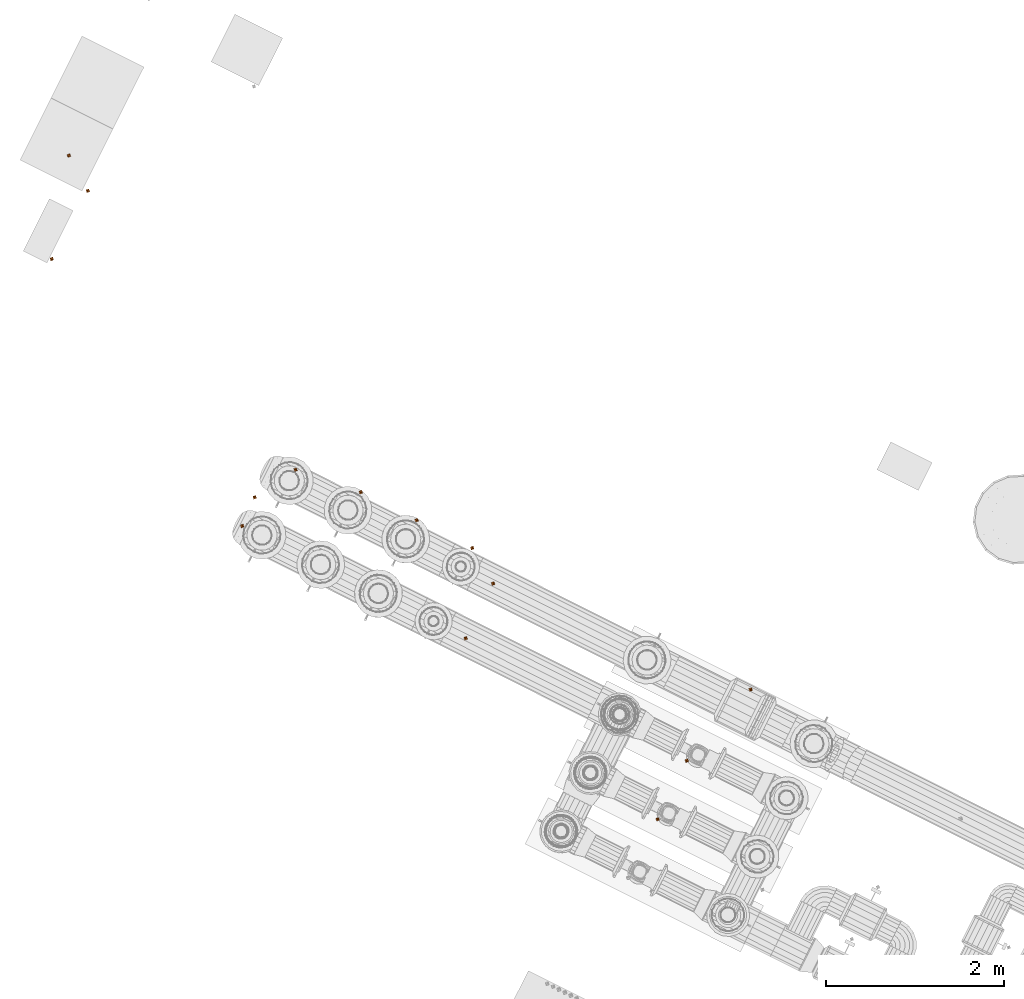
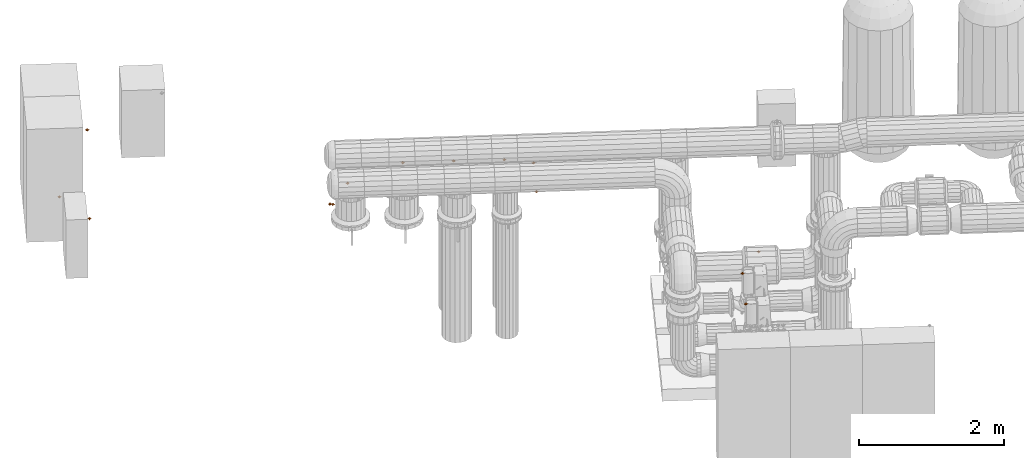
# One storey, part 150 of 152: 14 proxies.
"""IFC2X3 building model written with IfcOpenShell, lengths in metres."""

import ifcopenshell
import ifcopenshell.guid

model = None  # the IFC model being written
_history = None  # IfcOwnerHistory: only IFC2X3 demands one
_inside = {}  # id of a spatial element -> (the spatial element, [elements in it])
_under = {}  # id of a project, library or spatial element -> (it, [spatial elements below it])
_declared = {}  # id of a project -> (the project, [libraries it declares])
_typed = {}  # id of a type object -> (the type object, [elements of that type])
_made_of = {}  # id of a material, layer set ... -> (it, [elements and type objects made of it])


def new_model(schema):
    """Start an empty IFC model of exactly this schema.

    Asked for "IFC4X3", IfcOpenShell would pick the latest addendum, in which some entities
    have other attributes; the version numbers below select the first issue.
    IFC2X3 requires an IfcOwnerHistory on every rooted entity: one is made here for all.
    """
    global model, _history
    if schema == "IFC4X3":
        model = ifcopenshell.file(schema_version=(4, 3, 0, 0))
    else:
        model = ifcopenshell.file(schema=schema)
    _inside.clear()
    _under.clear()
    _declared.clear()
    _typed.clear()
    _made_of.clear()
    _history = None
    if model.schema == "IFC2X3":
        org = make("IfcOrganization", Name="unknown")
        user = make(
            "IfcPersonAndOrganization",
            ThePerson=make("IfcPerson", FamilyName="unknown"),
            TheOrganization=org,
        )
        app = make(
            "IfcApplication",
            ApplicationDeveloper=org,
            Version="unknown",
            ApplicationFullName="unknown",
            ApplicationIdentifier="unknown",
        )
        _history = make(
            "IfcOwnerHistory",
            OwningUser=user,
            OwningApplication=app,
            ChangeAction="ADDED",
            CreationDate=0,
        )
    return model


def make(cls, **values):
    """One entity of the class cls with the attributes given. An attribute that is None is left unset."""
    return model.create_entity(
        cls, **{name: value for name, value in values.items() if value is not None}
    )


def rooted(cls, **values):
    """An entity with a GlobalId (a new one), such as an element, a storey or a relation."""
    return make(cls, GlobalId=ifcopenshell.guid.new(), OwnerHistory=_history, **values)


def si_unit(unit_type, name, prefix=None):
    """IfcSIUnit, for example si_unit("LENGTHUNIT", "METRE", prefix="MILLI")."""
    return make("IfcSIUnit", UnitType=unit_type, Prefix=prefix, Name=name)


def derived_unit(unit_type, elements):
    """IfcDerivedUnit: a product of units, each with its exponent."""
    return make(
        "IfcDerivedUnit",
        Elements=[
            make("IfcDerivedUnitElement", Unit=unit, Exponent=power)
            for unit, power in elements
        ],
        UnitType=unit_type,
    )


def assignment(units):
    """IfcUnitAssignment: the units of a project."""
    return None if units is None else make("IfcUnitAssignment", Units=units)


def point(xyz):
    """IfcCartesianPoint."""
    return None if xyz is None else make("IfcCartesianPoint", Coordinates=xyz)


def direction(xyz):
    """IfcDirection."""
    return None if xyz is None else make("IfcDirection", DirectionRatios=xyz)


def frame(location, z_axis=None, x_axis=None):
    """IfcAxis2Placement3D, a coordinate frame: its origin and axes. An axis left out is left unset."""
    return make(
        "IfcAxis2Placement3D",
        Location=point(location),
        Axis=direction(z_axis),
        RefDirection=direction(x_axis),
    )


def origin():
    """The frame at (0, 0, 0) with its axes left unset."""
    return frame((0.0, 0.0, 0.0))


def place(relative_to, where):
    """IfcLocalPlacement: puts the frame where relative to a parent placement (None: the world)."""
    return make(
        "IfcLocalPlacement", PlacementRelTo=relative_to, RelativePlacement=where
    )


def context(
    kind, dimensions, precision=None, world=None, true_north=None, identifier=None
):
    """IfcGeometricRepresentationContext, for example the 3D "Model" context."""
    return make(
        "IfcGeometricRepresentationContext",
        ContextIdentifier=identifier,
        ContextType=kind,
        CoordinateSpaceDimension=dimensions,
        Precision=precision,
        WorldCoordinateSystem=world,
        TrueNorth=true_north,
    )


def subcontext(parent, identifier, kind, view, scale=None):
    """IfcGeometricRepresentationSubContext, for example "Body" below "Model"."""
    return make(
        "IfcGeometricRepresentationSubContext",
        ContextIdentifier=identifier,
        ContextType=kind,
        ParentContext=parent,
        TargetScale=scale,
        TargetView=view,
    )


def project(units=None, contexts=None):
    """IfcProject with its units and contexts."""
    return rooted(
        "IfcProject",
        Name="project",
        RepresentationContexts=contexts,
        UnitsInContext=assignment(units),
    )


def spatial(cls, under=None, at=None, **own):
    """A site, building, storey or space (cls), placed at a placement, below another one or the project."""
    s = rooted(cls, ObjectPlacement=at, **own)
    if under is not None:
        _under.setdefault(under.id(), (under, []))[1].append(s)
    return s


def faces_of(points, faces, orient=None, outer=None):
    """IfcFace entities. A face is a list of loops; a loop is a list of indices into points, from 0.

    orient and outer hold one flag for each loop. By default every Orientation is true, the
    first loop of a face is its IfcFaceOuterBound and the others are IfcFaceBound.
    """
    made = []
    for i, loops in enumerate(faces):
        bounds = []
        for j, loop in enumerate(loops):
            is_outer = j == 0 if outer is None else outer[i][j]
            bounds.append(
                make(
                    "IfcFaceOuterBound" if is_outer else "IfcFaceBound",
                    Bound=make("IfcPolyLoop", Polygon=[points[k] for k in loop]),
                    Orientation=True if orient is None else orient[i][j],
                )
            )
        made.append(make("IfcFace", Bounds=bounds))
    return made


def faceted_brep(points, faces, orient=None, outer=None, voids=None):
    """IfcFacetedBrep: a solid bounded by flat faces; with voids (closed shells), ...WithVoids."""
    shared = [point(p) for p in points]
    hull = make("IfcClosedShell", CfsFaces=faces_of(shared, faces, orient, outer))
    if voids is None:
        return make("IfcFacetedBrep", Outer=hull)
    return make(
        "IfcFacetedBrepWithVoids",
        Outer=hull,
        Voids=[
            make(cls, CfsFaces=faces_of(shared, fs, o, b)) for cls, fs, o, b in voids
        ],
    )


def shape(context_of_items, identifier, shape_type, items):
    """IfcShapeRepresentation: the items that make up one representation, for example the "Body"."""
    return make(
        "IfcShapeRepresentation",
        ContextOfItems=context_of_items,
        RepresentationIdentifier=identifier,
        RepresentationType=shape_type,
        Items=items,
    )


def made_of(thing, what):
    """Note that an element or type object is made of a material, layer set ...; save() writes the relation."""
    if what is not None:
        _made_of.setdefault(what.id(), (what, []))[1].append(thing)
    return thing


def type_object(cls, material=None, **own):
    """A type object (cls), such as IfcWallType, which elements share."""
    return made_of(rooted(cls, **own), material)


def element(
    cls,
    number,
    at=None,
    inside=None,
    cuts=None,
    type_object=None,
    material=None,
    context=None,
    identifier="Body",
    shape_type=None,
    held_by="IfcProductDefinitionShape",
    body=None,
    shapes=None,
    **own,
):
    """One element of the class cls, such as IfcWall. Its Tag is "e" and its number.

    at: its placement. inside: the storey or other place that contains it. cuts: it is an
    opening in that element (IfcRelVoidsElement). A single representation is given by context,
    identifier, shape_type and body (its items); several are given by shapes. held_by: the class
    of the entity that holds the representations. save() writes the other relations.
    """
    e = rooted(cls, Tag="e%d" % number, ObjectPlacement=at, **own)
    if body is not None:
        shapes = [shape(context, identifier, shape_type, body)]
    if shapes is not None:
        e.Representation = make(held_by, Representations=shapes)
    if inside is not None:
        _inside.setdefault(inside.id(), (inside, []))[1].append(e)
    if cuts is not None:
        rooted(
            "IfcRelVoidsElement", RelatingBuildingElement=cuts, RelatedOpeningElement=e
        )
    if type_object is not None:
        _typed.setdefault(type_object.id(), (type_object, []))[1].append(e)
    return made_of(e, material)


def aggregate(whole, parts):
    """IfcRelAggregates: a whole, such as a stair, and the parts it consists of."""
    return rooted("IfcRelAggregates", RelatingObject=whole, RelatedObjects=parts)


def save(model, path):
    """Write the relations noted so far, then the file.

    IfcRelAggregates (storeys below a building ...), IfcRelContainedInSpatialStructure (elements
    in a storey), IfcRelDefinesByType, IfcRelAssociatesMaterial and IfcRelDeclares: one each for
    every whole, place, type object, material and project.
    """
    for whole, parts in _under.values():
        aggregate(whole, parts)
    for where, things in _inside.values():
        rooted(
            "IfcRelContainedInSpatialStructure",
            RelatedElements=things,
            RelatingStructure=where,
        )
    for kind, things in _typed.values():
        rooted("IfcRelDefinesByType", RelatedObjects=things, RelatingType=kind)
    for what, things in _made_of.values():
        rooted("IfcRelAssociatesMaterial", RelatedObjects=things, RelatingMaterial=what)
    for by, libraries in _declared.values():
        rooted("IfcRelDeclares", RelatingContext=by, RelatedDefinitions=libraries)
    model.write(path)


model = new_model("IFC2X3")

# Units and contexts
model_context = context("Model", 3, precision=5.2338327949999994e-05, world=origin(), true_north=direction((0.0, 1.0)))
body_context = subcontext(model_context, "Body", "Model", "MODEL_VIEW")
ifc_project = project(units=[si_unit("LENGTHUNIT", "METRE"), si_unit("AREAUNIT", "SQUARE_METRE"), si_unit("VOLUMEUNIT", "CUBIC_METRE"), si_unit("MASSUNIT", "GRAM", prefix="KILO"), si_unit("PLANEANGLEUNIT", "RADIAN"), derived_unit("THERMALTRANSMITTANCEUNIT", [(si_unit("MASSUNIT", "GRAM", prefix="KILO"), 1), (si_unit("THERMODYNAMICTEMPERATUREUNIT", "KELVIN"), -1), (si_unit("TIMEUNIT", "SECOND"), -3)])], contexts=[model_context])

# Site, building, storey
site_placement = place(None, frame((0.0, 0.0, 0.0), z_axis=(0.0, 0.0, 1.0), x_axis=(0.8939966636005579, -0.4480736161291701, 0.0)))
site = spatial("IfcSite", under=ifc_project, at=site_placement, Name="Default", CompositionType="ELEMENT")
building_placement = place(site_placement, origin())
building = spatial("IfcBuilding", under=site, at=building_placement, CompositionType="ELEMENT")
storey_placement = place(building_placement, frame((0.0, 0.0, 2.7499999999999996)))
storey = spatial("IfcBuildingStorey", under=building, at=storey_placement, Name="1. Obergeschoss", CompositionType="ELEMENT", Elevation=2.7499999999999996)

# Proxies
building_element_proxy_type = type_object("IfcBuildingElementProxyType", Name="DirectShape:Gebäudeautomation", PredefinedType="NOTDEFINED")
proxy_1_placement = place(storey_placement, origin())
element("IfcBuildingElementProxy", 1, at=proxy_1_placement, inside=storey, type_object=building_element_proxy_type, Name="DirectShape:Wärmeversorgungsnetz Vorlauffühler", context=body_context, shape_type="Brep", body=[
    faceted_brep([(7.690516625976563, 7.316572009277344, 2.5428984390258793), (7.665516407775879, 7.316572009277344, 2.5678980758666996), (7.690516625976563, 7.341572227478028, 2.5678980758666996), (7.690516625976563, 7.291572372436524, 2.5678980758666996), (7.715516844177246, 7.316572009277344, 2.5678980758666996), (7.690516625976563, 7.316572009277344, 2.5928982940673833)], [[[0, 1, 2]], [[0, 3, 1]], [[0, 4, 3]], [[0, 2, 4]], [[5, 2, 1]], [[5, 1, 3]], [[5, 3, 4]], [[5, 4, 2]]]),
])
proxy_2_placement = place(storey_placement, origin())
element("IfcBuildingElementProxy", 2, at=proxy_2_placement, inside=storey, type_object=building_element_proxy_type, Name="DirectShape:Wärmeversorgungsnetz Rücklauffühler", context=body_context, shape_type="Brep", body=[
    faceted_brep([(7.690773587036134, 8.005699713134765, 2.5419281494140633), (7.66577336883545, 8.005699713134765, 2.5669283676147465), (7.690773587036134, 8.03069993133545, 2.5669283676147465), (7.690773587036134, 7.980700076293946, 2.5669283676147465), (7.715773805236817, 8.005699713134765, 2.5669283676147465), (7.690773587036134, 8.005699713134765, 2.591928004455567)], [[[0, 1, 2]], [[0, 3, 1]], [[0, 4, 3]], [[0, 2, 4]], [[5, 2, 1]], [[5, 1, 3]], [[5, 3, 4]], [[5, 4, 2]]]),
])
proxy_3_placement = place(storey_placement, origin())
element("IfcBuildingElementProxy", 3, at=proxy_3_placement, inside=storey, type_object=building_element_proxy_type, Name="DirectShape:Wärmeversorgungsnetz Differenzdruck", context=body_context, shape_type="Brep", body=[
    faceted_brep([(4.857096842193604, 7.671467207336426, 2.1987206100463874), (4.832096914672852, 7.671467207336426, 2.223720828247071), (4.857096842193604, 7.69646742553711, 2.223720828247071), (4.857096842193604, 7.646466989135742, 2.223720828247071), (4.882096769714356, 7.671467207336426, 2.223720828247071), (4.857096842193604, 7.671467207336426, 2.2487204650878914)], [[[0, 1, 2]], [[0, 3, 1]], [[0, 4, 3]], [[0, 2, 4]], [[5, 2, 1]], [[5, 1, 3]], [[5, 3, 4]], [[5, 4, 2]]]),
])
proxy_4_placement = place(storey_placement, origin())
element("IfcBuildingElementProxy", 4, at=proxy_4_placement, inside=storey, type_object=building_element_proxy_type, Name="DirectShape:Wärmeversorgungsnetz Druckaufnehmer", context=body_context, shape_type="Brep", body=[
    faceted_brep([(4.877944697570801, 7.320259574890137, 2.438690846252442), (4.852944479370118, 7.320259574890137, 2.463691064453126), (4.877944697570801, 7.345259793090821, 2.463691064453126), (4.877944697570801, 7.295259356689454, 2.463691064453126), (4.902944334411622, 7.320259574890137, 2.463691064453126), (4.877944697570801, 7.320259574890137, 2.488690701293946)], [[[0, 1, 2]], [[0, 3, 1]], [[0, 4, 3]], [[0, 2, 4]], [[5, 2, 1]], [[5, 1, 3]], [[5, 3, 4]], [[5, 4, 2]]]),
])
proxy_5_placement = place(storey_placement, origin())
element("IfcBuildingElementProxy", 5, at=proxy_5_placement, inside=storey, type_object=building_element_proxy_type, Name="DirectShape:Wärmeversorgungsnetz Schmutzfänger", context=body_context, shape_type="Brep", body=[
    faceted_brep([(10.81566773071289, 8.23823203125, 0.7551665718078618), (10.790668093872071, 8.23823203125, 0.7801664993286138), (10.81566773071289, 8.263232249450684, 0.7801664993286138), (10.81566773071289, 8.21323239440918, 0.7801664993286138), (10.840667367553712, 8.23823203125, 0.7801664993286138), (10.81566773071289, 8.23823203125, 0.8051667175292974)], [[[0, 1, 2]], [[0, 3, 1]], [[0, 4, 3]], [[0, 2, 4]], [[5, 2, 1]], [[5, 1, 3]], [[5, 3, 4]], [[5, 4, 2]]]),
])
proxy_6_placement = place(storey_placement, origin())
element("IfcBuildingElementProxy", 6, at=proxy_6_placement, inside=storey, type_object=building_element_proxy_type, Name="DirectShape:Wärmeversorgungsnetz Versorgungspumpe", context=body_context, shape_type="Brep", body=[
    faceted_brep([(10.532408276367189, 7.200855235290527, 1.124801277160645), (10.507408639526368, 7.200855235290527, 1.149801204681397), (10.532408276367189, 7.225855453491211, 1.149801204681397), (10.532408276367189, 7.1758550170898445, 1.149801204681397), (10.557407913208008, 7.200855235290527, 1.149801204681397), (10.532408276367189, 7.200855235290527, 1.174801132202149)], [[[0, 1, 2]], [[0, 3, 1]], [[0, 4, 3]], [[0, 2, 4]], [[5, 2, 1]], [[5, 1, 3]], [[5, 3, 4]], [[5, 4, 2]]]),
])
proxy_7_placement = place(storey_placement, origin())
element("IfcBuildingElementProxy", 7, at=proxy_7_placement, inside=storey, type_object=building_element_proxy_type, Name="DirectShape:Wärmeversorgungsnetz Versorgungspumpe", context=body_context, shape_type="Brep", body=[
    faceted_brep([(10.533883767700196, 6.464101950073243, 1.1256800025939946), (10.508884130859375, 6.464101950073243, 1.1506799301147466), (10.533883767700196, 6.489102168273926, 1.1506799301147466), (10.533883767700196, 6.439101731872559, 1.1506799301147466), (10.558883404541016, 6.464101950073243, 1.1506799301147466), (10.533883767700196, 6.464101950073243, 1.1756798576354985)], [[[0, 1, 2]], [[0, 3, 1]], [[0, 4, 3]], [[0, 2, 4]], [[5, 2, 1]], [[5, 1, 3]], [[5, 3, 4]], [[5, 4, 2]]]),
])
proxy_8_placement = place(storey_placement, origin())
element("IfcBuildingElementProxy", 8, at=proxy_8_placement, inside=storey, type_object=building_element_proxy_type, Name="DirectShape:Sanitär Osmoseanlage", context=body_context, shape_type="Brep", body=[
    faceted_brep([(1.2653250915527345, 10.172982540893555, 0.7207512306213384), (1.2403251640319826, 10.172982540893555, 0.7457511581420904), (1.2653250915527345, 10.197982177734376, 0.7457511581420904), (1.2653250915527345, 10.147981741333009, 0.7457511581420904), (1.2903250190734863, 10.172982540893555, 0.7457511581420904), (1.2653250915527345, 10.172982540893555, 0.7707510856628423)], [[[0, 1, 2]], [[0, 3, 1]], [[0, 4, 3]], [[0, 2, 4]], [[5, 2, 1]], [[5, 1, 3]], [[5, 3, 4]], [[5, 4, 2]]]),
])
proxy_9_placement = place(storey_placement, origin())
element("IfcBuildingElementProxy", 9, at=proxy_9_placement, inside=storey, type_object=building_element_proxy_type, Name="DirectShape:Sanitär Druckhaltung", context=body_context, shape_type="Brep", body=[
    faceted_brep([(1.6146898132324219, 9.045414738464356, 1.1268697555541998), (1.5896895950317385, 9.045414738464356, 1.1518696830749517), (1.6146898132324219, 9.070414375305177, 1.1518696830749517), (1.6146898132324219, 9.02041393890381, 1.1518696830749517), (1.6396897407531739, 9.045414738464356, 1.1518696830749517), (1.6146898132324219, 9.045414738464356, 1.1768699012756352)], [[[0, 1, 2]], [[0, 3, 1]], [[0, 4, 3]], [[0, 2, 4]], [[5, 2, 1]], [[5, 1, 3]], [[5, 3, 4]], [[5, 4, 2]]]),
])
proxy_10_placement = place(storey_placement, origin())
element("IfcBuildingElementProxy", 10, at=proxy_10_placement, inside=storey, type_object=building_element_proxy_type, Name="DirectShape:Sanitär Reinwasserbehälter", context=body_context, shape_type="Brep", body=[
    faceted_brep([(1.6343928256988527, 9.914255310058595, 2.0143353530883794), (1.6093928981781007, 9.914255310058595, 2.0393352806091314), (1.6343928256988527, 9.939254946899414, 2.0393352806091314), (1.6343928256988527, 9.889254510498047, 2.0393352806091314), (1.6593930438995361, 9.914255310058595, 2.0393352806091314), (1.6343928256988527, 9.914255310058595, 2.0643352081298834)], [[[0, 1, 2]], [[0, 3, 1]], [[0, 4, 3]], [[0, 2, 4]], [[5, 2, 1]], [[5, 1, 3]], [[5, 3, 4]], [[5, 4, 2]]]),
])
proxy_11_placement = place(storey_placement, origin())
element("IfcBuildingElementProxy", 11, at=proxy_11_placement, inside=storey, type_object=building_element_proxy_type, Name="DirectShape:Verteiler Rücklauffühler", context=body_context, shape_type="Brep", body=[
    faceted_brep([(7.301699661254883, 8.258398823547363, 2.436565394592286), (7.276699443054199, 8.258398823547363, 2.461565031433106), (7.301699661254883, 8.283398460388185, 2.461565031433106), (7.301699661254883, 8.23339860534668, 2.461565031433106), (7.326699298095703, 8.258398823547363, 2.461565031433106), (7.301699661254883, 8.258398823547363, 2.4865652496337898)], [[[0, 1, 2]], [[0, 3, 1]], [[0, 4, 3]], [[0, 2, 4]], [[5, 2, 1]], [[5, 1, 3]], [[5, 3, 4]], [[5, 4, 2]]]),
])
proxy_12_placement = place(storey_placement, origin())
element("IfcBuildingElementProxy", 12, at=proxy_12_placement, inside=storey, type_object=building_element_proxy_type, Name="DirectShape:Verteiler Ventil Nachspeisung", context=body_context, shape_type="Brep", body=[
    faceted_brep([(5.130232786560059, 8.154777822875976, 2.2013506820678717), (5.1052325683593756, 8.154777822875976, 2.226350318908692), (5.130232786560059, 8.179777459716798, 2.226350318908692), (5.130232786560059, 8.129777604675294, 2.226350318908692), (5.1552324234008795, 8.154777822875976, 2.226350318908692), (5.130232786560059, 8.154777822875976, 2.2513505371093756)], [[[0, 1, 2]], [[0, 3, 1]], [[0, 4, 3]], [[0, 2, 4]], [[5, 2, 1]], [[5, 1, 3]], [[5, 3, 4]], [[5, 4, 2]]]),
])
proxy_13_placement = place(storey_placement, origin())
element("IfcBuildingElementProxy", 13, at=proxy_13_placement, inside=storey, type_object=building_element_proxy_type, Name="DirectShape:Verteiler Rücklauffühler", context=body_context, shape_type="Brep", body=[
    faceted_brep([(6.602033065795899, 8.258398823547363, 2.443002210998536), (6.577032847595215, 8.258398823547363, 2.468001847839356), (6.602033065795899, 8.283398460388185, 2.468001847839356), (6.602033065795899, 8.23339860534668, 2.468001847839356), (6.627032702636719, 8.258398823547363, 2.468001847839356), (6.602033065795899, 8.258398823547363, 2.49300206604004)], [[[0, 1, 2]], [[0, 3, 1]], [[0, 4, 3]], [[0, 2, 4]], [[5, 2, 1]], [[5, 1, 3]], [[5, 3, 4]], [[5, 4, 2]]]),
])
proxy_14_placement = place(storey_placement, origin())
element("IfcBuildingElementProxy", 14, at=proxy_14_placement, inside=storey, type_object=building_element_proxy_type, Name="DirectShape:Verteiler Rücklauffühler", context=body_context, shape_type="Brep", body=[
    faceted_brep([(5.898171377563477, 8.258398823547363, 2.443002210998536), (5.873171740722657, 8.258398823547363, 2.468001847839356), (5.898171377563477, 8.283398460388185, 2.468001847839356), (5.898171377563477, 8.23339860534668, 2.468001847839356), (5.923171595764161, 8.258398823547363, 2.468001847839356), (5.898171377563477, 8.258398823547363, 2.49300206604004)], [[[0, 1, 2]], [[0, 3, 1]], [[0, 4, 3]], [[0, 2, 4]], [[5, 2, 1]], [[5, 1, 3]], [[5, 3, 4]], [[5, 4, 2]]]),
])

save(model, "model.ifc")
